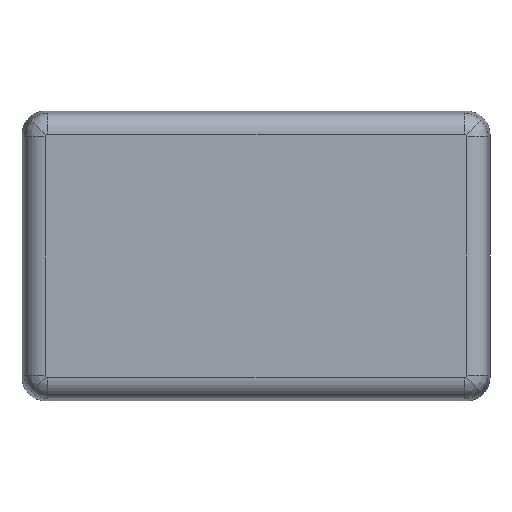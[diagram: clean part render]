
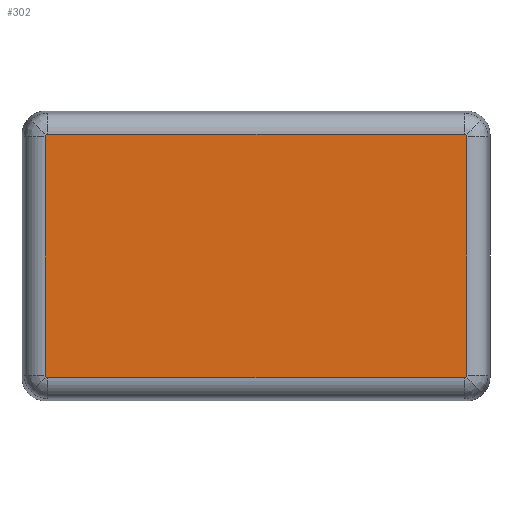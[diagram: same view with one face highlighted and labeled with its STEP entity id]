
A CAD part, front view. The second image highlights one B-rep face of the part: STEP entity #302.
In plain terms, the highlighted planar face has unit normal (0, -1, 0).
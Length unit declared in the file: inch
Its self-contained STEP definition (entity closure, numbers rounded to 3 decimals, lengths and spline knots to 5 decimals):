
#291 = ORIENTED_EDGE ( 'NONE', *, *, #488, .T. ) ;
#297 = EDGE_CURVE ( 'NONE', #492, #299, #1119, .T. ) ;
#299 = VERTEX_POINT ( 'NONE', #1120 ) ;
#300 = ORIENTED_EDGE ( 'NONE', *, *, #411, .F. ) ;
#301 = ORIENTED_EDGE ( 'NONE', *, *, #304, .F. ) ;
#302 = ADVANCED_FACE ( 'NONE', ( #1112 ), #1118, .F. ) ;
#303 = ORIENTED_EDGE ( 'NONE', *, *, #297, .F. ) ;
#304 = EDGE_CURVE ( 'NONE', #428, #353, #1097, .T. ) ;
#305 = EDGE_CURVE ( 'NONE', #334, #309, #1090, .T. ) ;
#306 = ORIENTED_EDGE ( 'NONE', *, *, #311, .F. ) ;
#307 = ORIENTED_EDGE ( 'NONE', *, *, #305, .T. ) ;
#308 = VERTEX_POINT ( 'NONE', #1099 ) ;
#309 = VERTEX_POINT ( 'NONE', #1086 ) ;
#310 = ORIENTED_EDGE ( 'NONE', *, *, #357, .F. ) ;
#311 = EDGE_CURVE ( 'NONE', #362, #309, #1085, .T. ) ;
#312 = EDGE_CURVE ( 'NONE', #299, #339, #1077, .T. ) ;
#313 = ORIENTED_EDGE ( 'NONE', *, *, #312, .F. ) ;
#334 = VERTEX_POINT ( 'NONE', #1045 ) ;
#338 = ORIENTED_EDGE ( 'NONE', *, *, #497, .F. ) ;
#339 = VERTEX_POINT ( 'NONE', #1068 ) ;
#340 = EDGE_CURVE ( 'NONE', #359, #308, #1029, .T. ) ;
#341 = ORIENTED_EDGE ( 'NONE', *, *, #340, .T. ) ;
#342 = EDGE_CURVE ( 'NONE', #498, #308, #1014, .T. ) ;
#344 = ORIENTED_EDGE ( 'NONE', *, *, #342, .F. ) ;
#347 = EDGE_CURVE ( 'NONE', #361, #339, #987, .T. ) ;
#348 = ORIENTED_EDGE ( 'NONE', *, *, #347, .T. ) ;
#351 = EDGE_LOOP ( 'NONE', ( #303, #291, #301, #300, #307, #306, #310, #341, #344, #338, #348, #313 ) ) ;
#353 = VERTEX_POINT ( 'NONE', #1016 ) ;
#357 = EDGE_CURVE ( 'NONE', #359, #362, #1005, .T. ) ;
#359 = VERTEX_POINT ( 'NONE', #1011 ) ;
#361 = VERTEX_POINT ( 'NONE', #1012 ) ;
#362 = VERTEX_POINT ( 'NONE', #998 ) ;
#411 = EDGE_CURVE ( 'NONE', #334, #428, #1309, .T. ) ;
#428 = VERTEX_POINT ( 'NONE', #1500 ) ;
#488 = EDGE_CURVE ( 'NONE', #492, #353, #1598, .T. ) ;
#492 = VERTEX_POINT ( 'NONE', #1640 ) ;
#497 = EDGE_CURVE ( 'NONE', #361, #498, #1724, .T. ) ;
#498 = VERTEX_POINT ( 'NONE', #1726 ) ;
#984 = DIRECTION ( 'NONE',  ( 0., 0., 1. ) ) ;
#985 = VECTOR ( 'NONE', #984, 39.37008 ) ;
#986 = CARTESIAN_POINT ( 'NONE',  ( 0.94602, -0.45, 0.63743 ) ) ;
#987 = LINE ( 'NONE', #986, #985 ) ;
#989 = CARTESIAN_POINT ( 'NONE',  ( 0.93502, -0.45, -0.54602 ) ) ;
#990 = CARTESIAN_POINT ( 'NONE',  ( 0.93798, -0.45, -0.54602 ) ) ;
#991 = CARTESIAN_POINT ( 'NONE',  ( 0.94071, -0.45, -0.54489 ) ) ;
#998 = CARTESIAN_POINT ( 'NONE',  ( -0.9428, -0.45, -0.5428 ) ) ;
#1000 = CARTESIAN_POINT ( 'NONE',  ( -0.9428, -0.45, -0.5428 ) ) ;
#1001 = CARTESIAN_POINT ( 'NONE',  ( -0.94071, -0.45, -0.54489 ) ) ;
#1002 = CARTESIAN_POINT ( 'NONE',  ( -0.93798, -0.45, -0.54602 ) ) ;
#1003 = CARTESIAN_POINT ( 'NONE',  ( -0.93502, -0.45, -0.54602 ) ) ;
#1005 =( BOUNDED_CURVE ( )  B_SPLINE_CURVE ( 3, ( #1003, #1002, #1001, #1000 ),
 .UNSPECIFIED., .F., .T. ) 
 B_SPLINE_CURVE_WITH_KNOTS ( ( 4, 4 ),
 ( 5.49818, 6.28319 ),
 .UNSPECIFIED. ) 
 CURVE ( )  GEOMETRIC_REPRESENTATION_ITEM ( )  RATIONAL_B_SPLINE_CURVE ( ( 1., 0.949, 0.949, 1. ) ) 
 REPRESENTATION_ITEM ( '' )  );
#1011 = CARTESIAN_POINT ( 'NONE',  ( -0.93502, -0.45, -0.54602 ) ) ;
#1012 = CARTESIAN_POINT ( 'NONE',  ( 0.94602, -0.45, -0.53502 ) ) ;
#1013 = CARTESIAN_POINT ( 'NONE',  ( 0.9428, -0.45, -0.5428 ) ) ;
#1014 =( BOUNDED_CURVE ( )  B_SPLINE_CURVE ( 3, ( #1013, #991, #990, #989 ),
 .UNSPECIFIED., .F., .T. ) 
 B_SPLINE_CURVE_WITH_KNOTS ( ( 4, 4 ),
 ( 0., 0.78501 ),
 .UNSPECIFIED. ) 
 CURVE ( )  GEOMETRIC_REPRESENTATION_ITEM ( )  RATIONAL_B_SPLINE_CURVE ( ( 1., 0.949, 0.949, 1. ) ) 
 REPRESENTATION_ITEM ( '' )  );
#1016 = CARTESIAN_POINT ( 'NONE',  ( -0.93502, -0.45, 0.54602 ) ) ;
#1017 = DIRECTION ( 'NONE',  ( 1., 0., 0. ) ) ;
#1018 = VECTOR ( 'NONE', #1017, 39.37008 ) ;
#1028 = CARTESIAN_POINT ( 'NONE',  ( 1.03743, -0.45, -0.54602 ) ) ;
#1029 = LINE ( 'NONE', #1028, #1018 ) ;
#1045 = CARTESIAN_POINT ( 'NONE',  ( -0.94602, -0.45, 0.53502 ) ) ;
#1068 = CARTESIAN_POINT ( 'NONE',  ( 0.94602, -0.45, 0.53502 ) ) ;
#1069 = CARTESIAN_POINT ( 'NONE',  ( 0.94602, -0.45, 0.53502 ) ) ;
#1070 = CARTESIAN_POINT ( 'NONE',  ( 0.94602, -0.45, 0.53798 ) ) ;
#1071 = CARTESIAN_POINT ( 'NONE',  ( 0.94489, -0.45, 0.54071 ) ) ;
#1072 = CARTESIAN_POINT ( 'NONE',  ( 0.9428, -0.45, 0.5428 ) ) ;
#1077 =( BOUNDED_CURVE ( )  B_SPLINE_CURVE ( 3, ( #1072, #1071, #1070, #1069 ),
 .UNSPECIFIED., .F., .T. ) 
 B_SPLINE_CURVE_WITH_KNOTS ( ( 4, 4 ),
 ( 0., 0.78501 ),
 .UNSPECIFIED. ) 
 CURVE ( )  GEOMETRIC_REPRESENTATION_ITEM ( )  RATIONAL_B_SPLINE_CURVE ( ( 1., 0.949, 0.949, 1. ) ) 
 REPRESENTATION_ITEM ( '' )  );
#1079 = CARTESIAN_POINT ( 'NONE',  ( -0.94602, -0.45, -0.53502 ) ) ;
#1080 = CARTESIAN_POINT ( 'NONE',  ( -0.94602, -0.45, -0.53798 ) ) ;
#1081 = CARTESIAN_POINT ( 'NONE',  ( -0.94489, -0.45, -0.54071 ) ) ;
#1082 = CARTESIAN_POINT ( 'NONE',  ( -0.9428, -0.45, -0.5428 ) ) ;
#1085 =( BOUNDED_CURVE ( )  B_SPLINE_CURVE ( 3, ( #1082, #1081, #1080, #1079 ),
 .UNSPECIFIED., .F., .T. ) 
 B_SPLINE_CURVE_WITH_KNOTS ( ( 4, 4 ),
 ( 0., 0.78501 ),
 .UNSPECIFIED. ) 
 CURVE ( )  GEOMETRIC_REPRESENTATION_ITEM ( )  RATIONAL_B_SPLINE_CURVE ( ( 1., 0.949, 0.949, 1. ) ) 
 REPRESENTATION_ITEM ( '' )  );
#1086 = CARTESIAN_POINT ( 'NONE',  ( -0.94602, -0.45, -0.53502 ) ) ;
#1087 = DIRECTION ( 'NONE',  ( 0., 0., -1. ) ) ;
#1088 = VECTOR ( 'NONE', #1087, 39.37008 ) ;
#1089 = CARTESIAN_POINT ( 'NONE',  ( -0.94602, -0.45, -0.63743 ) ) ;
#1090 = LINE ( 'NONE', #1089, #1088 ) ;
#1092 = CARTESIAN_POINT ( 'NONE',  ( -0.93502, -0.45, 0.54602 ) ) ;
#1093 = CARTESIAN_POINT ( 'NONE',  ( -0.93798, -0.45, 0.54602 ) ) ;
#1094 = CARTESIAN_POINT ( 'NONE',  ( -0.94071, -0.45, 0.54489 ) ) ;
#1095 = CARTESIAN_POINT ( 'NONE',  ( -0.9428, -0.45, 0.5428 ) ) ;
#1097 =( BOUNDED_CURVE ( )  B_SPLINE_CURVE ( 3, ( #1095, #1094, #1093, #1092 ),
 .UNSPECIFIED., .F., .T. ) 
 B_SPLINE_CURVE_WITH_KNOTS ( ( 4, 4 ),
 ( 0., 0.78501 ),
 .UNSPECIFIED. ) 
 CURVE ( )  GEOMETRIC_REPRESENTATION_ITEM ( )  RATIONAL_B_SPLINE_CURVE ( ( 1., 0.949, 0.949, 1. ) ) 
 REPRESENTATION_ITEM ( '' )  );
#1099 = CARTESIAN_POINT ( 'NONE',  ( 0.93502, -0.45, -0.54602 ) ) ;
#1107 = DIRECTION ( 'NONE',  ( 0., 1., 0. ) ) ;
#1108 = DIRECTION ( 'NONE',  ( 0., 0., 1. ) ) ;
#1109 = AXIS2_PLACEMENT_3D ( 'NONE', #1113, #1107, #1108 ) ;
#1112 = FACE_OUTER_BOUND ( 'NONE', #351, .T. ) ;
#1113 = CARTESIAN_POINT ( 'NONE',  ( -1.05, -0.45, 0.65 ) ) ;
#1114 = CARTESIAN_POINT ( 'NONE',  ( 0.9428, -0.45, 0.5428 ) ) ;
#1115 = CARTESIAN_POINT ( 'NONE',  ( 0.94071, -0.45, 0.54489 ) ) ;
#1116 = CARTESIAN_POINT ( 'NONE',  ( 0.93798, -0.45, 0.54602 ) ) ;
#1117 = CARTESIAN_POINT ( 'NONE',  ( 0.93502, -0.45, 0.54602 ) ) ;
#1118 = PLANE ( 'NONE',  #1109 ) ;
#1119 =( BOUNDED_CURVE ( )  B_SPLINE_CURVE ( 3, ( #1117, #1116, #1115, #1114 ),
 .UNSPECIFIED., .F., .T. ) 
 B_SPLINE_CURVE_WITH_KNOTS ( ( 4, 4 ),
 ( 5.49818, 6.28319 ),
 .UNSPECIFIED. ) 
 CURVE ( )  GEOMETRIC_REPRESENTATION_ITEM ( )  RATIONAL_B_SPLINE_CURVE ( ( 1., 0.949, 0.949, 1. ) ) 
 REPRESENTATION_ITEM ( '' )  );
#1120 = CARTESIAN_POINT ( 'NONE',  ( 0.9428, -0.45, 0.5428 ) ) ;
#1304 = CARTESIAN_POINT ( 'NONE',  ( -0.9428, -0.45, 0.5428 ) ) ;
#1305 = CARTESIAN_POINT ( 'NONE',  ( -0.94489, -0.45, 0.54071 ) ) ;
#1306 = CARTESIAN_POINT ( 'NONE',  ( -0.94602, -0.45, 0.53798 ) ) ;
#1307 = CARTESIAN_POINT ( 'NONE',  ( -0.94602, -0.45, 0.53502 ) ) ;
#1309 =( BOUNDED_CURVE ( )  B_SPLINE_CURVE ( 3, ( #1307, #1306, #1305, #1304 ),
 .UNSPECIFIED., .F., .T. ) 
 B_SPLINE_CURVE_WITH_KNOTS ( ( 4, 4 ),
 ( 5.49818, 6.28319 ),
 .UNSPECIFIED. ) 
 CURVE ( )  GEOMETRIC_REPRESENTATION_ITEM ( )  RATIONAL_B_SPLINE_CURVE ( ( 1., 0.949, 0.949, 1. ) ) 
 REPRESENTATION_ITEM ( '' )  );
#1437 = CARTESIAN_POINT ( 'NONE',  ( -1.03743, -0.45, 0.54602 ) ) ;
#1500 = CARTESIAN_POINT ( 'NONE',  ( -0.9428, -0.45, 0.5428 ) ) ;
#1584 = DIRECTION ( 'NONE',  ( -1., 0., 0. ) ) ;
#1597 = VECTOR ( 'NONE', #1584, 39.37008 ) ;
#1598 = LINE ( 'NONE', #1437, #1597 ) ;
#1640 = CARTESIAN_POINT ( 'NONE',  ( 0.93502, -0.45, 0.54602 ) ) ;
#1661 = CARTESIAN_POINT ( 'NONE',  ( 0.9428, -0.45, -0.5428 ) ) ;
#1662 = CARTESIAN_POINT ( 'NONE',  ( 0.94489, -0.45, -0.54071 ) ) ;
#1663 = CARTESIAN_POINT ( 'NONE',  ( 0.94602, -0.45, -0.53798 ) ) ;
#1664 = CARTESIAN_POINT ( 'NONE',  ( 0.94602, -0.45, -0.53502 ) ) ;
#1724 =( BOUNDED_CURVE ( )  B_SPLINE_CURVE ( 3, ( #1664, #1663, #1662, #1661 ),
 .UNSPECIFIED., .F., .T. ) 
 B_SPLINE_CURVE_WITH_KNOTS ( ( 4, 4 ),
 ( 5.49818, 6.28319 ),
 .UNSPECIFIED. ) 
 CURVE ( )  GEOMETRIC_REPRESENTATION_ITEM ( )  RATIONAL_B_SPLINE_CURVE ( ( 1., 0.949, 0.949, 1. ) ) 
 REPRESENTATION_ITEM ( '' )  );
#1726 = CARTESIAN_POINT ( 'NONE',  ( 0.9428, -0.45, -0.5428 ) ) ;
